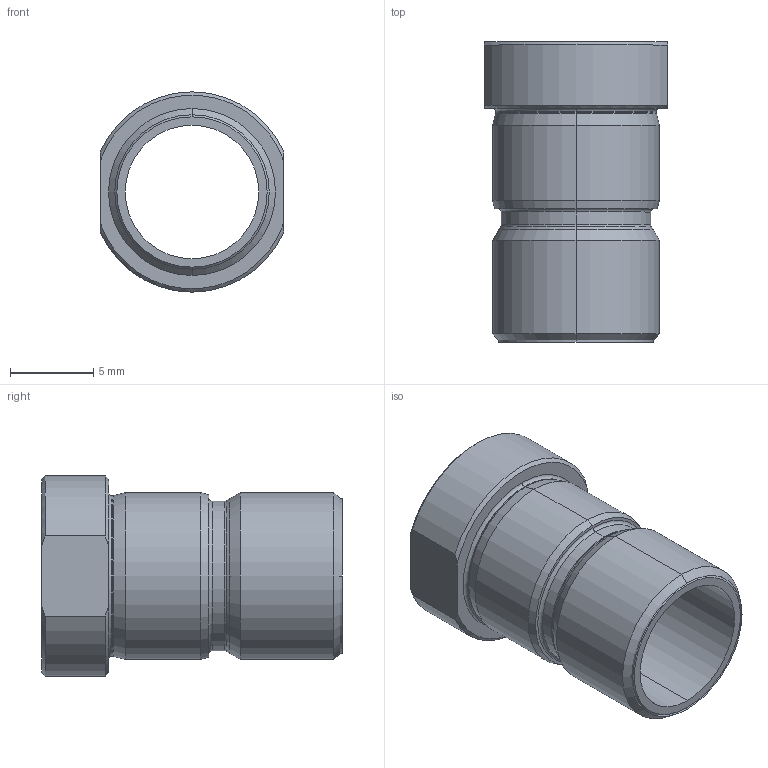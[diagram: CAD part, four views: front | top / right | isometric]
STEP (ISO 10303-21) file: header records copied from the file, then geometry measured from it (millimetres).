
FILE_DESCRIPTION((''),'2;1');
FILE_NAME('0000231492_PRT','2019-08-26T08:00:55',('pdmservice'),(''),'CREO PARAMETRIC BY PTC INC, 2018420','CREO PARAMETRIC BY PTC INC, 2018420','');
FILE_SCHEMA(('AUTOMOTIVE_DESIGN { 1 0 10303 214 1 1 1 1 }'));
Length unit declared in the file: millimetre
Products named in the file (1): 0000231492_PRT
Bounding box: 11 x 18 x 12 mm (x, y, z)
Volume: 600.5 mm3; surface area: 1348 mm2
Topology: 1 solids, 2 shells, 42 faces, 92 edges, 54 vertices
Faces by surface type: cylinder 14, cone 14, torus 8, plane 6
Entity records: 2182 total; most frequent: CARTESIAN_POINT 231, DIRECTION 224, ORIENTED_EDGE 180, PROPERTY_DEFINITION 117, REPRESENTATION 115, PROPERTY_DEFINITION_REPRESENTATION 115, DESCRIPTIVE_REPRESENTATION_ITEM 102, GENERAL_PROPERTY 100
